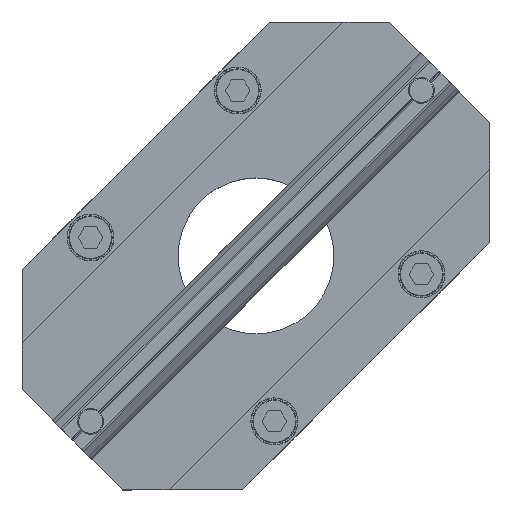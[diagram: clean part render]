
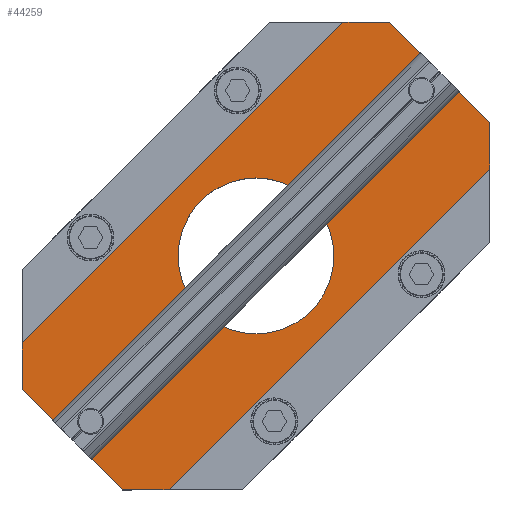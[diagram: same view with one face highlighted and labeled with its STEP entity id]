
A CAD part, top view. The second image highlights one B-rep face of the part: STEP entity #44259.
In plain terms, the highlighted planar face has unit normal (0, 0, 1).
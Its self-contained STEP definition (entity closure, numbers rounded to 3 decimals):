
#1110 = VERTEX_POINT ( 'NONE', #29685 ) ;
#1227 = CARTESIAN_POINT ( 'NONE',  ( -25.298, 52.471, 20.915 ) ) ;
#1559 = LINE ( 'NONE', #19374, #46211 ) ;
#1943 = ORIENTED_EDGE ( 'NONE', *, *, #14846, .F. ) ;
#2406 = CARTESIAN_POINT ( 'NONE',  ( -55.298, 26.76, 20.915 ) ) ;
#2608 = VERTEX_POINT ( 'NONE', #34515 ) ;
#3050 = AXIS2_PLACEMENT_3D ( 'NONE', #49563, #49998, #54826 ) ;
#3167 = LINE ( 'NONE', #48140, #45528 ) ;
#4937 = CARTESIAN_POINT ( 'NONE',  ( -27.872, 97.471, 20.915 ) ) ;
#5214 = ORIENTED_EDGE ( 'NONE', *, *, #24887, .T. ) ;
#5224 = CARTESIAN_POINT ( 'NONE',  ( -102.118, -5.06, 20.915 ) ) ;
#5341 = DIRECTION ( 'NONE',  ( -0.707, 0.707, 0. ) ) ;
#5411 = DIRECTION ( 'NONE',  ( 0., 0., 1. ) ) ;
#5475 = VERTEX_POINT ( 'NONE', #23582 ) ;
#6032 = DIRECTION ( 'NONE',  ( 1., 0., 0. ) ) ;
#6774 = ORIENTED_EDGE ( 'NONE', *, *, #39692, .F. ) ;
#7659 = ORIENTED_EDGE ( 'NONE', *, *, #11715, .T. ) ;
#8711 = VERTEX_POINT ( 'NONE', #1227 ) ;
#9035 = VECTOR ( 'NONE', #23943, 1000. ) ;
#9185 = VECTOR ( 'NONE', #50746, 1000. ) ;
#9424 = VERTEX_POINT ( 'NONE', #16920 ) ;
#10648 = CARTESIAN_POINT ( 'NONE',  ( -70.298, 26.76, 20.915 ) ) ;
#11715 = EDGE_CURVE ( 'NONE', #5475, #34185, #45186, .T. ) ;
#12699 = CARTESIAN_POINT ( 'NONE',  ( -96.009, -18.24, 20.915 ) ) ;
#12939 = ORIENTED_EDGE ( 'NONE', *, *, #44056, .T. ) ;
#13413 = DIRECTION ( 'NONE',  ( 0., 0., -1. ) ) ;
#14846 = EDGE_CURVE ( 'NONE', #30378, #17422, #39559, .T. ) ;
#14946 = AXIS2_PLACEMENT_3D ( 'NONE', #5224, #39262, #39046 ) ;
#16006 = CIRCLE ( 'NONE', #43431, 15. ) ;
#16082 = EDGE_LOOP ( 'NONE', ( #18270, #24177 ) ) ;
#16213 = EDGE_CURVE ( 'NONE', #1110, #5475, #21883, .T. ) ;
#16920 = CARTESIAN_POINT ( 'NONE',  ( -87.014, -18.24, 20.915 ) ) ;
#17011 = CARTESIAN_POINT ( 'NONE',  ( -25.298, 29.333, 20.915 ) ) ;
#17301 = EDGE_CURVE ( 'NONE', #17422, #30378, #29965, .T. ) ;
#17422 = VERTEX_POINT ( 'NONE', #58991 ) ;
#17548 = DIRECTION ( 'NONE',  ( 1., 0., 0. ) ) ;
#18270 = ORIENTED_EDGE ( 'NONE', *, *, #35425, .T. ) ;
#18648 = DIRECTION ( 'NONE',  ( -1., 0., 0. ) ) ;
#19374 = CARTESIAN_POINT ( 'NONE',  ( -44.588, 71.76, 20.915 ) ) ;
#19858 = CARTESIAN_POINT ( 'NONE',  ( -27.872, 97.471, 20.915 ) ) ;
#20487 = EDGE_CURVE ( 'NONE', #33664, #1110, #1559, .T. ) ;
#21883 = LINE ( 'NONE', #4937, #9035 ) ;
#23582 = CARTESIAN_POINT ( 'NONE',  ( -115.298, 10.044, 20.915 ) ) ;
#23943 = DIRECTION ( 'NONE',  ( -0.707, -0.707, 0. ) ) ;
#24128 = DIRECTION ( 'NONE',  ( -1., 0., 0. ) ) ;
#24177 = ORIENTED_EDGE ( 'NONE', *, *, #25222, .T. ) ;
#24271 = DIRECTION ( 'NONE',  ( -1., 0., 0. ) ) ;
#24329 = DIRECTION ( 'NONE',  ( 0., 0., -1. ) ) ;
#24600 = CARTESIAN_POINT ( 'NONE',  ( -38.479, 58.58, 20.915 ) ) ;
#24824 = ORIENTED_EDGE ( 'NONE', *, *, #16213, .T. ) ;
#24887 = EDGE_CURVE ( 'NONE', #34185, #53997, #54977, .T. ) ;
#25058 = FACE_BOUND ( 'NONE', #54679, .T. ) ;
#25222 = EDGE_CURVE ( 'NONE', #34309, #26968, #26106, .T. ) ;
#26106 = CIRCLE ( 'NONE', #36765, 2.55 ) ;
#26968 = VERTEX_POINT ( 'NONE', #56304 ) ;
#27323 = LINE ( 'NONE', #12699, #56149 ) ;
#28291 = EDGE_CURVE ( 'NONE', #8711, #33664, #59864, .T. ) ;
#28525 = CARTESIAN_POINT ( 'NONE',  ( -104.668, -5.06, 20.915 ) ) ;
#28669 = CARTESIAN_POINT ( 'NONE',  ( -44.588, 71.76, 20.915 ) ) ;
#28904 = ORIENTED_EDGE ( 'NONE', *, *, #54457, .F. ) ;
#29614 = FACE_BOUND ( 'NONE', #56382, .T. ) ;
#29685 = CARTESIAN_POINT ( 'NONE',  ( -53.583, 71.76, 20.915 ) ) ;
#29965 = CIRCLE ( 'NONE', #14946, 2.55 ) ;
#30378 = VERTEX_POINT ( 'NONE', #28525 ) ;
#31544 = ORIENTED_EDGE ( 'NONE', *, *, #31983, .F. ) ;
#31694 = ORIENTED_EDGE ( 'NONE', *, *, #17301, .F. ) ;
#31983 = EDGE_CURVE ( 'NONE', #45870, #37013, #16006, .T. ) ;
#32513 = ORIENTED_EDGE ( 'NONE', *, *, #50525, .T. ) ;
#33139 = DIRECTION ( 'NONE',  ( 1., 0., 0. ) ) ;
#33664 = VERTEX_POINT ( 'NONE', #28669 ) ;
#34159 = DIRECTION ( 'NONE',  ( -1., 0., 0. ) ) ;
#34185 = VERTEX_POINT ( 'NONE', #57595 ) ;
#34211 = ORIENTED_EDGE ( 'NONE', *, *, #20487, .T. ) ;
#34309 = VERTEX_POINT ( 'NONE', #54618 ) ;
#34515 = CARTESIAN_POINT ( 'NONE',  ( -25.298, 43.476, 20.915 ) ) ;
#35425 = EDGE_CURVE ( 'NONE', #26968, #34309, #54450, .T. ) ;
#36765 = AXIS2_PLACEMENT_3D ( 'NONE', #47700, #13413, #18648 ) ;
#37013 = VERTEX_POINT ( 'NONE', #38217 ) ;
#37839 = VECTOR ( 'NONE', #5341, 1000. ) ;
#38217 = CARTESIAN_POINT ( 'NONE',  ( -85.298, 26.76, 20.915 ) ) ;
#38644 = AXIS2_PLACEMENT_3D ( 'NONE', #10648, #5411, #6032 ) ;
#39046 = DIRECTION ( 'NONE',  ( 1., 0., 0. ) ) ;
#39262 = DIRECTION ( 'NONE',  ( 0., 0., 1. ) ) ;
#39559 = CIRCLE ( 'NONE', #3050, 2.55 ) ;
#39692 = EDGE_CURVE ( 'NONE', #37013, #45870, #56951, .T. ) ;
#40001 = CARTESIAN_POINT ( 'NONE',  ( -13.73, 40.902, 20.915 ) ) ;
#40236 = FACE_OUTER_BOUND ( 'NONE', #44998, .T. ) ;
#41150 = AXIS2_PLACEMENT_3D ( 'NONE', #24600, #44492, #34159 ) ;
#41697 = CARTESIAN_POINT ( 'NONE',  ( -115.298, 24.186, 20.915 ) ) ;
#43431 = AXIS2_PLACEMENT_3D ( 'NONE', #47308, #52605, #33139 ) ;
#43566 = AXIS2_PLACEMENT_3D ( 'NONE', #19858, #24329, #24128 ) ;
#44056 = EDGE_CURVE ( 'NONE', #2608, #8711, #58505, .T. ) ;
#44259 = ADVANCED_FACE ( 'NONE', ( #52356, #25058, #29614, #40236 ), #48091, .F. ) ;
#44431 = ORIENTED_EDGE ( 'NONE', *, *, #28291, .T. ) ;
#44492 = DIRECTION ( 'NONE',  ( 0., 0., -1. ) ) ;
#44768 = DIRECTION ( 'NONE',  ( 0.707, -0.707, 0. ) ) ;
#44998 = EDGE_LOOP ( 'NONE', ( #24824, #7659, #5214, #32513, #28904, #12939, #44431, #34211 ) ) ;
#45186 = LINE ( 'NONE', #41697, #53545 ) ;
#45528 = VECTOR ( 'NONE', #48358, 1000. ) ;
#45870 = VERTEX_POINT ( 'NONE', #2406 ) ;
#46211 = VECTOR ( 'NONE', #24271, 1000. ) ;
#47308 = CARTESIAN_POINT ( 'NONE',  ( -70.298, 26.76, 20.915 ) ) ;
#47700 = CARTESIAN_POINT ( 'NONE',  ( -38.479, 58.58, 20.915 ) ) ;
#48091 = PLANE ( 'NONE',  #43566 ) ;
#48140 = CARTESIAN_POINT ( 'NONE',  ( 0.412, 69.186, 20.915 ) ) ;
#48358 = DIRECTION ( 'NONE',  ( -0.707, -0.707, 0. ) ) ;
#49563 = CARTESIAN_POINT ( 'NONE',  ( -102.118, -5.06, 20.915 ) ) ;
#49998 = DIRECTION ( 'NONE',  ( 0., 0., 1. ) ) ;
#50525 = EDGE_CURVE ( 'NONE', #53997, #9424, #27323, .T. ) ;
#50746 = DIRECTION ( 'NONE',  ( 0., 1., 0. ) ) ;
#52356 = FACE_BOUND ( 'NONE', #16082, .T. ) ;
#52605 = DIRECTION ( 'NONE',  ( 0., 0., 1. ) ) ;
#53545 = VECTOR ( 'NONE', #60626, 1000. ) ;
#53997 = VERTEX_POINT ( 'NONE', #62833 ) ;
#54450 = CIRCLE ( 'NONE', #41150, 2.55 ) ;
#54457 = EDGE_CURVE ( 'NONE', #2608, #9424, #3167, .T. ) ;
#54536 = CARTESIAN_POINT ( 'NONE',  ( -119.796, 5.547, 20.915 ) ) ;
#54618 = CARTESIAN_POINT ( 'NONE',  ( -35.929, 58.58, 20.915 ) ) ;
#54679 = EDGE_LOOP ( 'NONE', ( #31544, #6774 ) ) ;
#54826 = DIRECTION ( 'NONE',  ( 1., 0., 0. ) ) ;
#54977 = LINE ( 'NONE', #54536, #58819 ) ;
#56149 = VECTOR ( 'NONE', #17548, 1000. ) ;
#56304 = CARTESIAN_POINT ( 'NONE',  ( -41.029, 58.58, 20.915 ) ) ;
#56382 = EDGE_LOOP ( 'NONE', ( #31694, #1943 ) ) ;
#56951 = CIRCLE ( 'NONE', #38644, 15. ) ;
#57595 = CARTESIAN_POINT ( 'NONE',  ( -115.298, 1.049, 20.915 ) ) ;
#58505 = LINE ( 'NONE', #17011, #9185 ) ;
#58819 = VECTOR ( 'NONE', #44768, 1000. ) ;
#58991 = CARTESIAN_POINT ( 'NONE',  ( -99.568, -5.06, 20.915 ) ) ;
#59864 = LINE ( 'NONE', #40001, #37839 ) ;
#60626 = DIRECTION ( 'NONE',  ( 0., -1., 0. ) ) ;
#62833 = CARTESIAN_POINT ( 'NONE',  ( -96.009, -18.24, 20.915 ) ) ;
